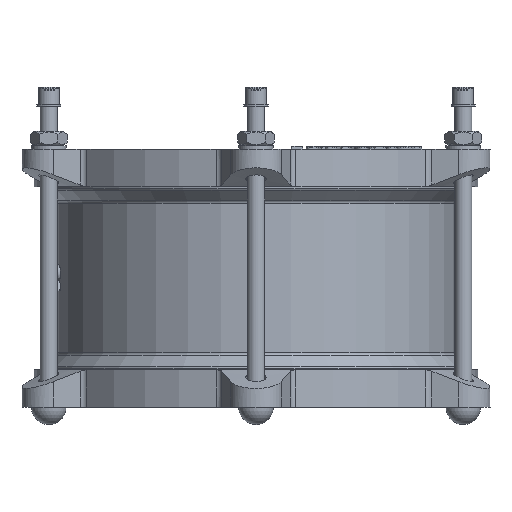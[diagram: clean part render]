
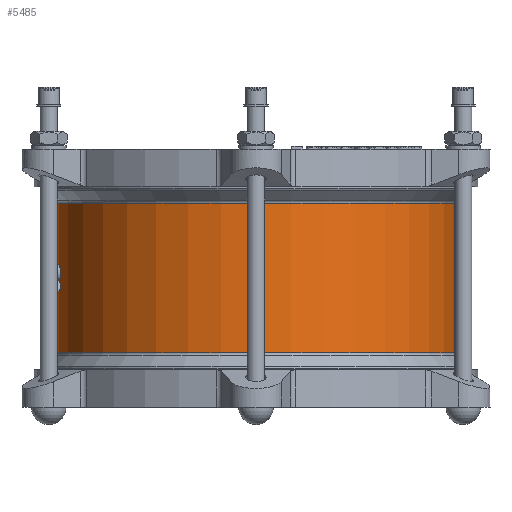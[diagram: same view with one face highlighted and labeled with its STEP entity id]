
A CAD part, left-side view. The second image highlights one B-rep face of the part: STEP entity #5485.
In plain terms, the highlighted cylindrical face has radius 138.5 mm (diameter 277 mm), a full revolution.
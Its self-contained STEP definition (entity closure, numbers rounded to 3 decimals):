
#5485=ADVANCED_FACE('',(#10195,#10197),#10199,.T.);
#10195=FACE_OUTER_BOUND('',#10196,.T.);
#10196=EDGE_LOOP('',(#15171));
#10197=FACE_OUTER_BOUND('',#10198,.T.);
#10198=EDGE_LOOP('',(#15172));
#10199=CYLINDRICAL_SURFACE('',#10200,138.5);
#10200=AXIS2_PLACEMENT_3D('',#10201,#10202,#10203);
#10201=CARTESIAN_POINT('',(0.,0.,52.714));
#10202=DIRECTION('',(0.,0.,-1.));
#10203=DIRECTION('',(0.,1.,0.));
#15171=ORIENTED_EDGE('',*,*,#17306,.T.);
#15172=ORIENTED_EDGE('',*,*,#17307,.F.);
#17306=EDGE_CURVE('',#20213,#20213,#20214,.T.);
#17307=EDGE_CURVE('',#20215,#20215,#20216,.T.);
#20213=VERTEX_POINT('',#30041);
#20214=CIRCLE('',#30042,138.5);
#20215=VERTEX_POINT('',#30046);
#20216=CIRCLE('',#30047,138.5);
#30041=CARTESIAN_POINT('',(0.,138.5,51.679));
#30042=AXIS2_PLACEMENT_3D('',#30043,#30044,#30045);
#30043=CARTESIAN_POINT('',(0.,0.,51.679));
#30044=DIRECTION('',(0.,0.,-1.));
#30045=DIRECTION('',(0.,1.,0.));
#30046=CARTESIAN_POINT('',(0.,138.5,-51.679));
#30047=AXIS2_PLACEMENT_3D('',#30048,#30049,#30050);
#30048=CARTESIAN_POINT('',(0.,0.,-51.679));
#30049=DIRECTION('',(0.,0.,-1.));
#30050=DIRECTION('',(0.,1.,0.));
